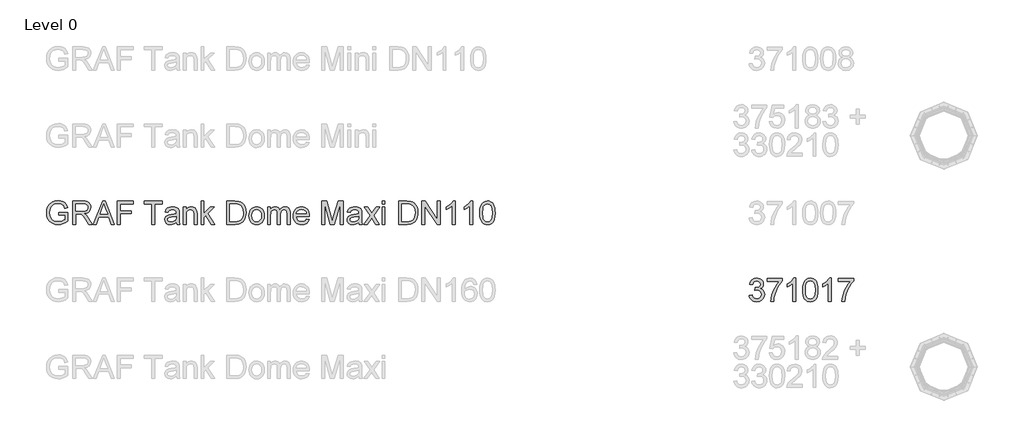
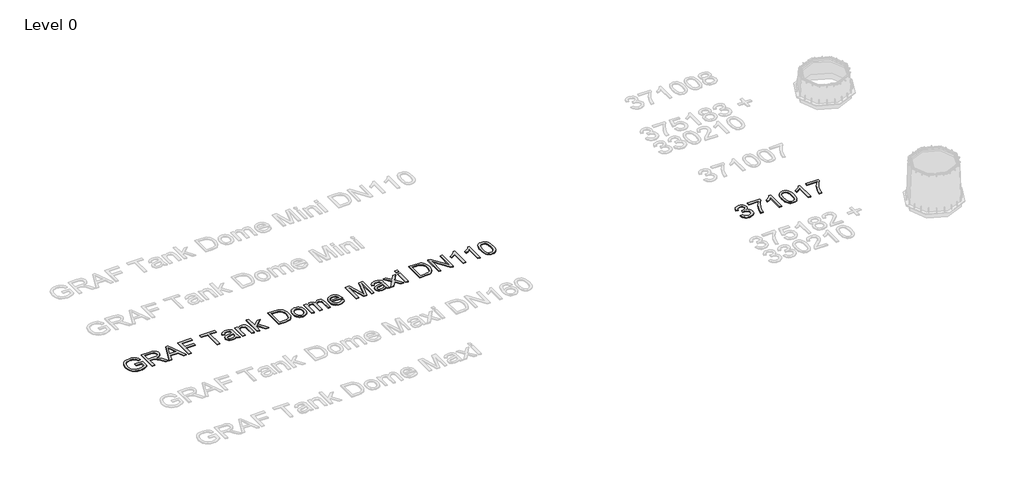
# One storey, part 3 of 20: 2 proxies.
"""IFC4 building model written with IfcOpenShell, lengths in millimetres."""

from ifc_helpers import new_model, si_unit, origin, origin_with_axes, place, context, project, spatial, polyline, outline, extrude, element, save

model = new_model("IFC4")

# Units and contexts
model_context = context("Model", 3, world=origin())
ifc_project = project(units=[si_unit("LENGTHUNIT", "METRE", prefix="MILLI")], contexts=[model_context])

# Site, building, storey
site = spatial("IfcSite", under=ifc_project)
building = spatial("IfcBuilding", under=site)
storey = spatial("IfcBuildingStorey", under=building, Name="Level 0", Elevation=0.0)

# Proxies
placement = place(None, origin())
element("IfcBuildingElementProxy", 1, Name="300mm Arial", ObjectType="300mm Arial", at=placement, inside=storey, context=model_context, shape_type="SweptSolid", body=[
    extrude(outline(polyline([(-15240.9940387, -16082.9794047), (-15240.9940387, -16045.3082884), (-15118.5629107, -16045.3082884), (-15118.5629107, -16157.9537553), (-15148.3153671, -16178.6471176), (-15179.0059225, -16193.4911561), (-15210.5610007, -16202.4306885), (-15242.9070251, -16205.4105327), (-15285.1674693, -16200.674052), (-15323.3628175, -16186.46461), (-15355.0926395, -16163.2788472), (-15377.9565055, -16131.6134045), (-15391.7796715, -16093.6295885), (-15396.3873935, -16051.4887059), (-15391.7980656, -16009.0443207), (-15378.0300819, -15969.5613856), (-15355.6536596, -15936.442809), (-15325.2390156, -15913.0914993), (-15288.1932987, -15899.2407422), (-15245.9236575, -15894.6238232), (-15214.8928112, -15897.3001647), (-15186.9889618, -15905.3291892), (-15163.4904994, -15918.1314827), (-15145.6758138, -15935.1276309), (-15132.4964413, -15957.1361712), (-15122.9039183, -15984.9756412), (-15157.6319786, -15994.7613023), (-15165.3850917, -15974.9048716), (-15174.8120678, -15959.9228773), (-15187.2832674, -15948.6289001), (-15204.169051, -15939.8365204), (-15224.3013932, -15934.1803347), (-15246.5122687, -15932.2949395), (-15272.5123287, -15934.3274875), (-15294.7415982, -15940.4251316), (-15313.1173039, -15949.8245166), (-15327.5566722, -15961.7622873), (-15346.9440533, -15990.7881767), (-15355.7732212, -16019.225455), (-15358.7162772, -16049.9436015), (-15355.175413, -16085.9684459), (-15344.5528204, -16115.6105377), (-15327.1703961, -16138.6583447), (-15303.3500369, -16154.9003348), (-15275.4737787, -16164.529646), (-15245.9236575, -16167.7394164), (-15219.831627, -16165.3205923), (-15194.3833899, -16158.0641199), (-15172.2828791, -16148.0669267), (-15156.234027, -16137.42594), (-15156.234027, -16082.9794047), (-15240.9940387, -16082.9794047)])), origin_with_axes(), (0.0, 0.0, 1.0), 10.0),
    extrude(outline(polyline([(-15057.3473467, -16200.7016432), (-15057.3473467, -15899.3327127), (-14927.4850024, -15899.3327127), (-14892.5821982, -15901.3652607), (-14867.1891434, -15907.4629048), (-14848.6294968, -15918.7200939), (-14834.2269167, -15936.2312768), (-14824.9838815, -15957.9455116), (-14821.9028698, -15981.811856), (-14827.0072325, -16011.4999331), (-14842.3203206, -16036.1112385), (-14853.9200997, -16046.1406214), (-14868.3019865, -16054.1558504), (-14905.4120827, -16064.1438466), (-14884.0013506, -16080.257078), (-14853.467145, -16119.0318402), (-14803.2144645, -16200.7016432), (-14846.9924219, -16200.7016432), (-14886.2086426, -16138.2352804), (-14914.5355562, -16096.8853441), (-14934.4379722, -16077.3508102), (-14952.3538253, -16070.1771113), (-14974.2060158, -16068.8527361), (-15019.6762304, -16068.8527361), (-15019.6762304, -16200.7016432), (-15057.3473467, -16200.7016432)]), holes=[polyline([(-15019.6762304, -16031.1816198), (-14935.3576771, -16031.1816198), (-14911.1418448, -16029.8480476), (-14892.3522719, -16025.8473309), (-14878.2072092, -16018.9127553), (-14867.9249074, -16008.7776063), (-14861.6617165, -15996.5179388), (-14859.5739861, -15983.2098076), (-14863.5563087, -15964.834102), (-14875.5032765, -15950.0268517), (-14896.058683, -15940.2595847), (-14925.8663217, -15937.003829), (-15019.6762304, -15937.003829), (-15019.6762304, -16031.1816198)])]), origin_with_axes(), (0.0, 0.0, 1.0), 10.0),
    extrude(outline(polyline([(-14791.0743586, -16200.7016432), (-14670.7769462, -15899.3327127), (-14638.6976362, -15899.3327127), (-14518.4002238, -16200.7016432), (-14558.2050557, -16200.7016432), (-14592.7123868, -16106.5238524), (-14716.835772, -16106.5238524), (-14751.2695268, -16200.7016432), (-14791.0743586, -16200.7016432)]), holes=[polyline([(-14703.003409, -16068.8527361), (-14606.4711735, -16068.8527361), (-14633.6208647, -15994.7613023), (-14654.7372912, -15937.003829), (-14673.499273, -15988.2865792), (-14703.003409, -16068.8527361)])]), origin_with_axes(), (0.0, 0.0, 1.0), 10.0),
    extrude(outline(polyline([(-14478.1539335, -16200.7016432), (-14478.1539335, -15899.3327127), (-14275.6716834, -15899.3327127), (-14275.6716834, -15937.003829), (-14440.4828172, -15937.003829), (-14440.4828172, -16026.4727303), (-14299.2161311, -16026.4727303), (-14299.2161311, -16064.1438466), (-14440.4828172, -16064.1438466), (-14440.4828172, -16200.7016432), (-14478.1539335, -16200.7016432)])), origin_with_axes(), (0.0, 0.0, 1.0), 10.0),
    extrude(outline(polyline([(-14030.8094274, -16200.7016432), (-14030.8094274, -15937.003829), (-14129.6961077, -15937.003829), (-14129.6961077, -15899.3327127), (-13894.2516308, -15899.3327127), (-13894.2516308, -15937.003829), (-13993.1383111, -15937.003829), (-13993.1383111, -16200.7016432), (-14030.8094274, -16200.7016432)])), origin_with_axes(), (0.0, 0.0, 1.0), 10.0),
    extrude(outline(polyline([(-13715.3138283, -16172.4483059), (-13733.312455, -16187.8809556), (-13751.8445105, -16197.9793164), (-13771.3330592, -16203.5527286), (-13792.2011653, -16205.4105327), (-13823.6826671, -16200.9407665), (-13846.905218, -16187.5314677), (-13861.2250247, -16167.1691993), (-13865.9982936, -16141.8405239), (-13864.1956718, -16126.2239332), (-13858.7878065, -16112.0420823), (-13850.4460822, -16099.9019765), (-13839.8418837, -16090.410621), (-13813.4647447, -16078.049786), (-13780.8703999, -16072.3844033), (-13742.353155, -16066.4247149), (-13715.5345575, -16059.434957), (-13715.3138283, -16051.0472475), (-13717.9073964, -16034.2350404), (-13725.6881006, -16023.2353687), (-13743.088919, -16015.0683884), (-13767.3323425, -16012.3460616), (-13789.7731442, -16014.1578805), (-13805.4449172, -16019.5933369), (-13816.1318891, -16029.6457125), (-13823.6182877, -16045.3082884), (-13861.289404, -16040.5993989), (-13854.7503016, -16019.9980071), (-13844.9922316, -16003.8111994), (-13831.1046863, -15991.4319702), (-13812.1771577, -15982.2533144), (-13789.0281831, -15976.5695376), (-13762.4763001, -15974.6749453), (-13737.009669, -15976.3488084), (-13716.8221445, -15981.3703976), (-13701.601027, -15988.9211756), (-13691.0336167, -15998.1826048), (-13684.0254646, -16009.6329319), (-13679.482122, -16023.7504035), (-13677.642712, -16056.7126303), (-13677.642712, -16103.5807964), (-13675.7297257, -16169.0270034), (-13668.224933, -16200.7016432), (-13705.8960493, -16200.7016432), (-13715.3138283, -16172.4483059)]), holes=[polyline([(-13715.3138283, -16097.1060733), (-13776.0879339, -16108.657568), (-13808.4983377, -16114.7644091), (-13823.1768293, -16124.697223), (-13828.3271773, -16139.1917736), (-13825.522077, -16150.3937803), (-13817.1067764, -16159.5724361), (-13803.2652163, -16165.6976713), (-13784.1813378, -16167.7394164), (-13763.9478281, -16165.4861392), (-13746.0687631, -16158.7263075), (-13731.5742125, -16148.7659025), (-13721.4942459, -16136.9109052), (-13717.0244796, -16124.697223), (-13715.5345575, -16107.7746512), (-13715.3138283, -16097.1060733)])]), origin_with_axes(), (0.0, 0.0, 1.0), 10.0),
    extrude(outline(polyline([(-13625.8449271, -16200.7016432), (-13625.8449271, -15979.3838349), (-13588.1738108, -15979.3838349), (-13588.1738108, -16010.2859225), (-13575.0864088, -15994.70612), (-13559.3686506, -15983.5776896), (-13541.0205361, -15976.9006314), (-13520.0420653, -15974.6749453), (-13501.4732216, -15976.4683701), (-13484.4678764, -15981.8486442), (-13470.2860255, -15990.1443832), (-13460.1876647, -16000.6842024), (-13448.8936874, -16028.3857166), (-13446.9071247, -16064.8060342), (-13446.9071247, -16200.7016432), (-13484.578241, -16200.7016432), (-13484.578241, -16069.8828057), (-13488.9192485, -16036.5526969), (-13494.9249221, -16026.6290801), (-13504.2599277, -16018.9311494), (-13516.2252896, -16013.9923336), (-13530.122032, -16012.3460616), (-13552.1857546, -16016.0432757), (-13570.9937216, -16027.1349178), (-13578.5100106, -16036.1894135), (-13583.8787885, -16048.5640441), (-13588.1738108, -16083.2737103), (-13588.1738108, -16200.7016432), (-13625.8449271, -16200.7016432)])), origin_with_axes(), (0.0, 0.0, 1.0), 10.0),
    extrude(outline(polyline([(-13395.1093397, -16200.7016432), (-13395.1093397, -15899.3327127), (-13357.4382234, -15899.3327127), (-13357.4382234, -16061.274367), (-13272.9725173, -15979.3838349), (-13220.8804268, -15979.3838349), (-13306.3762025, -16062.3044366), (-13216.1715373, -16200.7016432), (-13260.1702239, -16200.7016432), (-13333.3787409, -16088.4976346), (-13357.4382234, -16111.8213531), (-13357.4382234, -16200.7016432), (-13395.1093397, -16200.7016432)])), origin_with_axes(), (0.0, 0.0, 1.0), 10.0),
    extrude(outline(polyline([(-13060.7781825, -16200.7016432), (-13060.7781825, -15899.3327127), (-12956.8147307, -15899.3327127), (-12903.030383, -15903.6737203), (-12879.0076887, -15912.0430357), (-12858.7373908, -15925.2316052), (-12837.8968757, -15948.1874417), (-12823.0528372, -15976.7350845), (-12814.1684871, -16010.3227107), (-12811.207037, -16048.3984972), (-12813.2119939, -16080.7445216), (-12819.2268645, -16109.209391), (-12828.3871262, -16133.4436174), (-12839.8282562, -16153.097713), (-12852.9984316, -16168.6131361), (-12867.3458295, -16180.4313452), (-12883.8177458, -16189.1961338), (-12903.3614768, -16195.5512952), (-12951.8115355, -16200.7016432), (-13060.7781825, -16200.7016432)]), holes=[polyline([(-13023.1070662, -16163.0305269), (-12956.4468487, -16163.0305269), (-12928.8740931, -16161.6693635), (-12907.9600017, -16157.5858733), (-12892.1778641, -16151.0191797), (-12880.0009701, -16142.2084059), (-12866.9135681, -16125.9020365), (-12857.0819218, -16104.794807), (-12850.9290954, -16078.794747), (-12848.8781533, -16047.809886), (-12852.8972641, -16006.7542553), (-12864.9545965, -15976.4407789), (-12882.7692821, -15955.618658), (-12904.0604526, -15943.0370938), (-12925.7287021, -15938.5121452), (-12957.4769183, -15937.003829), (-13023.1070662, -15937.003829), (-13023.1070662, -16163.0305269)])]), origin_with_axes(), (0.0, 0.0, 1.0), 10.0),
    extrude(outline(polyline([(-12773.5359207, -16090.042739), (-12771.4987741, -16061.3801331), (-12765.3873345, -16036.6814556), (-12755.2016018, -16015.9467067), (-12740.9415759, -15999.1758862), (-12726.5849811, -15988.4567246), (-12710.7384641, -15980.8001806), (-12693.4020251, -15976.2062541), (-12674.575664, -15974.6749453), (-12653.7926305, -15976.5396472), (-12635.0007584, -15982.1337528), (-12618.2000475, -15991.4572621), (-12603.3904979, -16004.5101751), (-12591.3032751, -16020.8510335), (-12582.6695445, -16040.0383788), (-12577.4893062, -16062.0722111), (-12575.7625601, -16086.9525303), (-12578.8159806, -16125.0099227), (-12587.9762423, -16153.9806298), (-12602.9766307, -16175.6764705), (-12623.5504313, -16191.9092635), (-12647.9869928, -16202.0352154), (-12674.575664, -16205.4105327), (-12695.6622001, -16203.5527286), (-12714.6288162, -16197.9793164), (-12731.4755123, -16188.690296), (-12746.2022884, -16175.6856675), (-12758.1607526, -16159.18616), (-12766.7025126, -16139.4125028), (-12771.8275687, -16116.3646958), (-12773.5359207, -16090.042739)]), holes=[polyline([(-12735.8648044, -16089.9691626), (-12731.5054027, -16124.0626265), (-12718.4271978, -16148.3520353), (-12698.7455111, -16162.8925711), (-12674.575664, -16167.7394164), (-12650.5161815, -16162.86498), (-12630.871283, -16148.2416707), (-12617.793078, -16123.6303652), (-12613.4336764, -16088.7919402), (-12617.8206692, -16055.6917577), (-12630.9816476, -16031.7334428), (-12650.6541372, -16017.1929069), (-12674.575664, -16012.3460616), (-12698.7455111, -16017.1745128), (-12718.4271978, -16031.6598664), (-12731.5054027, -16055.8940928), (-12735.8648044, -16089.9691626)])]), origin_with_axes(), (0.0, 0.0, 1.0), 10.0),
    extrude(outline(polyline([(-12533.3825542, -16200.7016432), (-12533.3825542, -15979.3838349), (-12495.7114379, -15979.3838349), (-12495.7114379, -16015.8041524), (-12484.3806725, -15999.0747187), (-12469.8125455, -15985.9689226), (-12452.5036976, -15977.4984396), (-12432.9507696, -15974.6749453), (-12411.9998899, -15977.5536219), (-12395.2060768, -15986.1896518), (-12382.6613008, -16000.0128178), (-12374.4575323, -16018.4529028), (-12360.7263368, -15999.3000464), (-12345.0637609, -15985.6194347), (-12327.4698045, -15977.4110677), (-12307.9444676, -15974.6749453), (-12279.626751, -15979.227485), (-12258.6850684, -15992.8851041), (-12245.7448193, -16016.0156845), (-12241.4314029, -16048.9871084), (-12241.4314029, -16200.7016432), (-12279.1025192, -16200.7016432), (-12279.1025192, -16065.1739161), (-12282.5973981, -16033.7200056), (-12287.5086228, -16025.0471875), (-12295.2525388, -16018.2321736), (-12305.2129438, -16013.8175896), (-12316.7736355, -16012.3460616), (-12337.1818892, -16016.1168521), (-12353.8193524, -16027.4292234), (-12364.8834034, -16047.0557279), (-12368.5714204, -16075.7689176), (-12368.5714204, -16200.7016432), (-12406.2425367, -16200.7016432), (-12406.2425367, -16060.9800614), (-12408.4222375, -16039.6796939), (-12414.96134, -16024.4861675), (-12426.4668494, -16015.3810881), (-12443.545771, -16012.3460616), (-12458.0587157, -16014.3694126), (-12471.4312262, -16020.4394655), (-12482.4676861, -16030.4090676), (-12489.9724788, -16044.131066), (-12494.2766981, -16063.1689593), (-12495.7114379, -16089.0862458), (-12495.7114379, -16200.7016432), (-12533.3825542, -16200.7016432)])), origin_with_axes(), (0.0, 0.0, 1.0), 10.0),
    extrude(outline(polyline([(-12029.972832, -16134.7771896), (-11993.0374797, -16139.4860792), (-12006.3456109, -16167.3163521), (-12027.5815991, -16188.1200789), (-12056.2671976, -16201.0879193), (-12091.92416, -16205.4105327), (-12115.2984623, -16203.5458308), (-12136.1251817, -16197.9517253), (-12154.4043184, -16188.6282159), (-12170.1358722, -16175.5753029), (-12182.7864143, -16159.1562696), (-12191.8225158, -16139.7343995), (-12197.2441767, -16117.3096927), (-12199.051397, -16091.882149), (-12197.2257826, -16065.5923819), (-12191.7489394, -16042.4204147), (-12182.6208674, -16022.3662475), (-12169.8415666, -16005.4298801), (-12154.1513995, -15991.9745962), (-12136.2907286, -15982.363679), (-12116.259554, -15976.5971288), (-12094.0578756, -15974.6749453), (-12072.5712678, -15976.5925302), (-12053.1402007, -15982.3452849), (-12035.7646742, -15991.9332094), (-12020.4446884, -16005.3563037), (-12007.9389998, -16022.2558829), (-11999.0063651, -16042.2732619), (-11993.6467843, -16065.4084409), (-11991.8602573, -16091.6614198), (-11992.0809865, -16101.8149629), (-12161.3802807, -16101.8149629), (-12154.8595723, -16130.0131178), (-12139.7120312, -16150.7432682), (-12117.8506436, -16163.4903794), (-12091.188396, -16167.7394164), (-12071.1388273, -16165.7712477), (-12054.2530437, -16159.8667417), (-12040.5310453, -16149.6580163), (-12029.972832, -16134.7771896)]), holes=[polyline([(-12161.3802807, -16064.1438466), (-12029.5313736, -16064.1438466), (-12034.6265393, -16044.2414306), (-12044.6145354, -16030.0043974), (-12066.5770906, -16016.7606456), (-12094.2050284, -16012.3460616), (-12119.5980831, -16015.8685317), (-12140.594948, -16026.4359421), (-12155.1906661, -16042.9078584), (-12161.3802807, -16064.1438466)])]), origin_with_axes(), (0.0, 0.0, 1.0), 10.0),
    extrude(outline(polyline([(-11831.758013, -16200.7016432), (-11831.758013, -15899.3327127), (-11766.9372055, -15899.3327127), (-11705.2801831, -16111.7477767), (-11692.8457717, -16156.1143454), (-11679.3812906, -16108.0689568), (-11618.7543378, -15899.3327127), (-11553.9335303, -15899.3327127), (-11553.9335303, -16200.7016432), (-11591.6046466, -16200.7016432), (-11591.6046466, -15937.003829), (-11667.3147612, -16200.7016432), (-11718.3767821, -16200.7016432), (-11794.0868967, -15937.003829), (-11794.0868967, -16200.7016432), (-11831.758013, -16200.7016432)])), origin_with_axes(), (0.0, 0.0, 1.0), 10.0),
    extrude(outline(polyline([(-11351.4512801, -16172.4483059), (-11369.4499067, -16187.8809556), (-11387.9819623, -16197.9793164), (-11407.4705109, -16203.5527286), (-11428.3386171, -16205.4105327), (-11459.8201189, -16200.9407665), (-11483.0426698, -16187.5314677), (-11497.3624765, -16167.1691993), (-11502.1357454, -16141.8405239), (-11500.3331236, -16126.2239332), (-11494.9252582, -16112.0420823), (-11486.583534, -16099.9019765), (-11475.9793355, -16090.410621), (-11449.6021964, -16078.049786), (-11417.0078517, -16072.3844033), (-11378.4906068, -16066.4247149), (-11351.6720093, -16059.434957), (-11351.4512801, -16051.0472475), (-11354.0448482, -16034.2350404), (-11361.8255524, -16023.2353687), (-11379.2263708, -16015.0683884), (-11403.4697942, -16012.3460616), (-11425.910596, -16014.1578805), (-11441.5823689, -16019.5933369), (-11452.2693409, -16029.6457125), (-11459.7557395, -16045.3082884), (-11497.4268558, -16040.5993989), (-11490.8877534, -16019.9980071), (-11481.1296834, -16003.8111994), (-11467.2421381, -15991.4319702), (-11448.3146095, -15982.2533144), (-11425.1656349, -15976.5695376), (-11398.6137519, -15974.6749453), (-11373.1471208, -15976.3488084), (-11352.9595963, -15981.3703976), (-11337.7384788, -15988.9211756), (-11327.1710684, -15998.1826048), (-11320.1629164, -16009.6329319), (-11315.6195738, -16023.7504035), (-11313.7801638, -16056.7126303), (-11313.7801638, -16103.5807964), (-11311.8671774, -16169.0270034), (-11304.3623847, -16200.7016432), (-11342.0335011, -16200.7016432), (-11351.4512801, -16172.4483059)]), holes=[polyline([(-11351.4512801, -16097.1060733), (-11412.2253857, -16108.657568), (-11444.6357895, -16114.7644091), (-11459.3142811, -16124.697223), (-11464.464629, -16139.1917736), (-11461.6595288, -16150.3937803), (-11453.2442282, -16159.5724361), (-11439.4026681, -16165.6976713), (-11420.3187896, -16167.7394164), (-11400.0852799, -16165.4861392), (-11382.2062149, -16158.7263075), (-11367.7116643, -16148.7659025), (-11357.6316976, -16136.9109052), (-11353.1619314, -16124.697223), (-11351.6720093, -16107.7746512), (-11351.4512801, -16097.1060733)])]), origin_with_axes(), (0.0, 0.0, 1.0), 10.0),
    extrude(outline(polyline([(-11285.5268266, -16200.7016432), (-11205.0342461, -16089.4541278), (-11280.8179371, -15979.3838349), (-11235.4948753, -15979.3838349), (-11198.9274049, -16032.3588422), (-11181.8576804, -16057.3748179), (-11167.0688241, -16036.9205789), (-11125.4245823, -15979.3838349), (-11080.1015205, -15979.3838349), (-11159.7111842, -16089.4541278), (-11083.0445764, -16200.7016432), (-11128.3676383, -16200.7016432), (-11174.5000405, -16133.8206964), (-11182.9613263, -16121.6070142), (-11240.2037648, -16200.7016432), (-11285.5268266, -16200.7016432)])), origin_with_axes(), (0.0, 0.0, 1.0), 10.0),
    extrude(outline(polyline([(-11050.0823497, -15937.003829), (-11050.0823497, -15899.3327127), (-11012.4112334, -15899.3327127), (-11012.4112334, -15937.003829), (-11050.0823497, -15937.003829)])), origin_with_axes(), (0.0, 0.0, 1.0), 10.0),
    extrude(outline(polyline([(-11050.0823497, -16200.7016432), (-11050.0823497, -15979.3838349), (-11012.4112334, -15979.3838349), (-11012.4112334, -16200.7016432), (-11050.0823497, -16200.7016432)])), origin_with_axes(), (0.0, 0.0, 1.0), 10.0),
    extrude(outline(polyline([(-10833.4734309, -16200.7016432), (-10833.4734309, -15899.3327127), (-10729.5099791, -15899.3327127), (-10675.7256314, -15903.6737203), (-10651.7029371, -15912.0430357), (-10631.4326392, -15925.2316052), (-10610.5921241, -15948.1874417), (-10595.7480856, -15976.7350845), (-10586.8637355, -16010.3227107), (-10583.9022854, -16048.3984972), (-10585.9072423, -16080.7445216), (-10591.9221129, -16109.209391), (-10601.0823746, -16133.4436174), (-10612.5235046, -16153.097713), (-10625.69368, -16168.6131361), (-10640.0410779, -16180.4313452), (-10656.5129942, -16189.1961338), (-10676.0567252, -16195.5512952), (-10724.506784, -16200.7016432), (-10833.4734309, -16200.7016432)]), holes=[polyline([(-10795.8023146, -16163.0305269), (-10729.1420971, -16163.0305269), (-10701.5693416, -16161.6693635), (-10680.6552501, -16157.5858733), (-10664.8731125, -16151.0191797), (-10652.6962185, -16142.2084059), (-10639.6088165, -16125.9020365), (-10629.7771702, -16104.794807), (-10623.6243438, -16078.794747), (-10621.5734017, -16047.809886), (-10625.5925125, -16006.7542553), (-10637.6498449, -15976.4407789), (-10655.4645305, -15955.618658), (-10676.755701, -15943.0370938), (-10698.4239505, -15938.5121452), (-10730.1721667, -15937.003829), (-10795.8023146, -15937.003829), (-10795.8023146, -16163.0305269)])]), origin_with_axes(), (0.0, 0.0, 1.0), 10.0),
    extrude(outline(polyline([(-10532.1045005, -16200.7016432), (-10532.1045005, -15899.3327127), (-10491.7846338, -15899.3327127), (-10334.3311399, -16138.0881276), (-10334.3311399, -15899.3327127), (-10296.6600236, -15899.3327127), (-10296.6600236, -16200.7016432), (-10336.9798902, -16200.7016432), (-10494.4333842, -15961.8726519), (-10494.4333842, -16200.7016432), (-10532.1045005, -16200.7016432)])), origin_with_axes(), (0.0, 0.0, 1.0), 10.0),
    extrude(outline(polyline([(-10103.5955525, -16200.7016432), (-10141.2666688, -16200.7016432), (-10141.2666688, -15965.8457775), (-10176.9512223, -15991.2664233), (-10216.6089014, -16010.2859225), (-10216.6089014, -15974.6749453), (-10187.0219919, -15958.580108), (-10161.3898139, -15939.4318502), (-10141.1838953, -15919.0695818), (-10127.8757642, -15899.3327127), (-10103.5955525, -15899.3327127), (-10103.5955525, -16200.7016432)])), origin_with_axes(), (0.0, 0.0, 1.0), 10.0),
    extrude(outline(polyline([(-9872.8599651, -16200.7016432), (-9910.5310814, -16200.7016432), (-9910.5310814, -15965.8457775), (-9946.215635, -15991.2664233), (-9985.873314, -16010.2859225), (-9985.873314, -15974.6749453), (-9956.2864046, -15958.580108), (-9930.6542266, -15939.4318502), (-9910.448308, -15919.0695818), (-9897.1401768, -15899.3327127), (-9872.8599651, -15899.3327127), (-9872.8599651, -16200.7016432)])), origin_with_axes(), (0.0, 0.0, 1.0), 10.0),
    extrude(outline(polyline([(-9783.3910639, -16052.4451991), (-9780.6227519, -16004.2066725), (-9772.3178158, -15965.7354129), (-9758.5590292, -15936.442809), (-9739.4291655, -15915.7402497), (-9714.7902688, -15903.434597), (-9684.5043836, -15899.3327127), (-9661.2910297, -15901.7607339), (-9640.505697, -15909.0447974), (-9623.1232727, -15920.8997947), (-9610.1186442, -15937.0406172), (-9600.2961949, -15957.3293093), (-9592.4603084, -15981.627915), (-9587.3283546, -16012.4840174), (-9585.6177033, -16052.4451991), (-9588.3584241, -16100.4078142), (-9596.5805867, -16138.7871034), (-9610.2565999, -16168.1072984), (-9629.3588725, -16188.8926311), (-9654.0529514, -16201.2810573), (-9684.5043836, -16205.4105327), (-9705.2529281, -16203.617108), (-9723.6470279, -16198.2368338), (-9739.6866829, -16189.2697102), (-9753.3718931, -16176.7157371), (-9766.5052803, -16154.0220165), (-9775.8862712, -16125.7456867), (-9781.5148657, -16091.8867475), (-9783.3910639, -16052.4451991)]), holes=[polyline([(-9745.7199476, -16052.3716227), (-9741.3053636, -16111.6282151), (-9735.7871337, -16131.8962138), (-9728.0616118, -16145.9240141), (-9708.3431369, -16162.2855658), (-9684.5043836, -16167.7394164), (-9660.6656303, -16162.2671717), (-9640.9471554, -16145.8504377), (-9633.2216335, -16131.7996447), (-9627.7034035, -16111.5362446), (-9623.2888196, -16052.3716227), (-9627.5562507, -15994.4486026), (-9632.8905397, -15974.2472825), (-9640.3585442, -15959.8860891), (-9660.0402309, -15942.7243941), (-9684.945842, -15937.003829), (-9708.5270779, -15942.0438124), (-9727.4730006, -15957.1637624), (-9735.4560399, -15972.7987472), (-9741.1582108, -15993.8783855), (-9745.7199476, -16052.3716227)])]), origin_with_axes(), (0.0, 0.0, 1.0), 10.0),
])
element("IfcBuildingElementProxy", 2, Name="300mm Arial", ObjectType="300mm Arial", at=placement, inside=storey, context=model_context, shape_type="SweptSolid", body=[
    extrude(outline(polyline([(-6292.0538732, -17120.650521), (-6254.3827568, -17115.9416315), (-6245.9490621, -17139.6148379), (-6233.5974241, -17155.5993106), (-6216.7208376, -17164.7043899), (-6194.7122972, -17167.7394164), (-6168.8869812, -17163.5639558), (-6148.947777, -17151.0375738), (-6136.2006659, -17132.3491685), (-6131.9516289, -17109.6876376), (-6136.1638777, -17088.1757379), (-6148.8006242, -17070.7289343), (-6167.930488, -17059.1682426), (-6191.6220885, -17055.3146787), (-6218.0360157, -17059.434957), (-6213.842161, -17021.7638407), (-6207.8088963, -17022.2052991), (-6185.2393359, -17019.5013664), (-6165.0610084, -17011.3895685), (-6150.8239752, -16997.66757), (-6146.0782975, -16978.1330361), (-6149.5179941, -16961.8634549), (-6159.8370841, -16948.6656883), (-6175.5824335, -16939.9192938), (-6195.3009084, -16937.003829), (-6215.0561716, -16939.946885), (-6231.2061912, -16948.7760529), (-6242.9968091, -16963.4913327), (-6249.6738673, -16984.0927244), (-6287.3449836, -16979.3838349), (-6276.2533415, -16945.5570854), (-6256.5164724, -16920.3019864), (-6229.513934, -16904.5750312), (-6196.6252836, -16899.3327127), (-6172.9428802, -16901.9170837), (-6151.1918572, -16909.6701968), (-6132.8529397, -16921.9022731), (-6119.4068528, -16937.923534), (-6111.1570991, -16956.3820131), (-6108.4071812, -16975.9257441), (-6111.0191433, -16994.1359029), (-6118.8550298, -17010.6538045), (-6131.8044761, -17024.7252908), (-6149.7571174, -17035.5962037), (-6126.1758815, -17045.1243474), (-6108.7014868, -17061.3479434), (-6097.8857561, -17083.3840749), (-6094.2805125, -17110.3498252), (-6096.0831343, -17129.4612948), (-6101.4909997, -17147.0644483), (-6110.5041085, -17163.1592856), (-6123.122461, -17177.7458067), (-6138.4953298, -17189.8491243), (-6155.771988, -17198.4943512), (-6174.9524356, -17203.6814873), (-6196.0366724, -17205.4105327), (-6215.0929598, -17203.9344062), (-6232.4569899, -17199.5060267), (-6248.1287629, -17192.1253942), (-6262.1082787, -17181.7925086), (-6273.8299188, -17169.1143754), (-6282.7280646, -17154.6979997), (-6288.802716, -17138.5433816), (-6292.0538732, -17120.650521)])), origin_with_axes(), (0.0, 0.0, 1.0), 10.0),
    extrude(outline(polyline([(-6061.3182858, -16941.7127186), (-6061.3182858, -16904.0416023), (-5863.5449252, -16904.0416023), (-5863.5449252, -16934.5022315), (-5891.7338831, -16970.1775879), (-5919.6469294, -17015.546635), (-5944.267432, -17066.4707002), (-5962.5787583, -17118.811111), (-5971.555079, -17157.9721494), (-5976.5582741, -17200.7016432), (-6014.2293904, -17200.7016432), (-6010.1550973, -17161.8716986), (-5999.2565932, -17115.7209023), (-5981.8281837, -17066.801794), (-5958.1641743, -17019.6669133), (-5930.5362365, -16977.0569813), (-5901.2160415, -16941.7127186), (-6061.3182858, -16941.7127186)])), origin_with_axes(), (0.0, 0.0, 1.0), 10.0),
    extrude(outline(polyline([(-5689.3160123, -17200.7016432), (-5726.9871286, -17200.7016432), (-5726.9871286, -16965.8457775), (-5762.6716821, -16991.2664233), (-5802.3293612, -17010.2859225), (-5802.3293612, -16974.6749453), (-5772.7424517, -16958.580108), (-5747.1102737, -16939.4318502), (-5726.9043551, -16919.0695818), (-5713.5962239, -16899.3327127), (-5689.3160123, -16899.3327127), (-5689.3160123, -17200.7016432)])), origin_with_axes(), (0.0, 0.0, 1.0), 10.0),
    extrude(outline(polyline([(-5599.847111, -17052.4451991), (-5597.078799, -17004.2066725), (-5588.773863, -16965.7354129), (-5575.0150764, -16936.442809), (-5555.8852126, -16915.7402497), (-5531.246316, -16903.434597), (-5500.9604307, -16899.3327127), (-5477.7470768, -16901.7607339), (-5456.9617441, -16909.0447974), (-5439.5793198, -16920.8997947), (-5426.5746913, -16937.0406172), (-5416.752242, -16957.3293093), (-5408.9163555, -16981.627915), (-5403.7844017, -17012.4840174), (-5402.0737504, -17052.4451991), (-5404.8144713, -17100.4078142), (-5413.0366339, -17138.7871034), (-5426.7126471, -17168.1072984), (-5445.8149197, -17188.8926311), (-5470.5089986, -17201.2810573), (-5500.9604307, -17205.4105327), (-5521.7089753, -17203.617108), (-5540.103075, -17198.2368338), (-5556.14273, -17189.2697102), (-5569.8279402, -17176.7157371), (-5582.9613275, -17154.0220165), (-5592.3423183, -17125.7456867), (-5597.9709129, -17091.8867475), (-5599.847111, -17052.4451991)]), holes=[polyline([(-5562.1759947, -17052.3716227), (-5557.7614108, -17111.6282151), (-5552.2431809, -17131.8962138), (-5544.517659, -17145.9240141), (-5524.799184, -17162.2855658), (-5500.9604307, -17167.7394164), (-5477.1216774, -17162.2671717), (-5457.4032025, -17145.8504377), (-5449.6776806, -17131.7996447), (-5444.1594507, -17111.5362446), (-5439.7448667, -17052.3716227), (-5444.0122979, -16994.4486026), (-5449.3465868, -16974.2472825), (-5456.8145913, -16959.8860891), (-5476.496278, -16942.7243941), (-5501.4018891, -16937.003829), (-5524.983125, -16942.0438124), (-5543.9290478, -16957.1637624), (-5551.9120871, -16972.7987472), (-5557.614258, -16993.8783855), (-5562.1759947, -17052.3716227)])]), origin_with_axes(), (0.0, 0.0, 1.0), 10.0),
    extrude(outline(polyline([(-5227.8448375, -17200.7016432), (-5265.5159538, -17200.7016432), (-5265.5159538, -16965.8457775), (-5301.2005073, -16991.2664233), (-5340.8581864, -17010.2859225), (-5340.8581864, -16974.6749453), (-5311.271277, -16958.580108), (-5285.639099, -16939.4318502), (-5265.4331804, -16919.0695818), (-5252.1250492, -16899.3327127), (-5227.8448375, -16899.3327127), (-5227.8448375, -17200.7016432)])), origin_with_axes(), (0.0, 0.0, 1.0), 10.0),
    extrude(outline(polyline([(-5138.3759363, -16941.7127186), (-5138.3759363, -16904.0416023), (-4940.6025757, -16904.0416023), (-4940.6025757, -16934.5022315), (-4968.7915336, -16970.1775879), (-4996.7045799, -17015.546635), (-5021.3250825, -17066.4707002), (-5039.6364088, -17118.811111), (-5048.6127295, -17157.9721494), (-5053.6159246, -17200.7016432), (-5091.2870409, -17200.7016432), (-5087.2127478, -17161.8716986), (-5076.3142437, -17115.7209023), (-5058.8858342, -17066.801794), (-5035.2218248, -17019.6669133), (-5007.593887, -16977.0569813), (-4978.273692, -16941.7127186), (-5138.3759363, -16941.7127186)])), origin_with_axes(), (0.0, 0.0, 1.0), 10.0),
])

save(model, "model.ifc")
